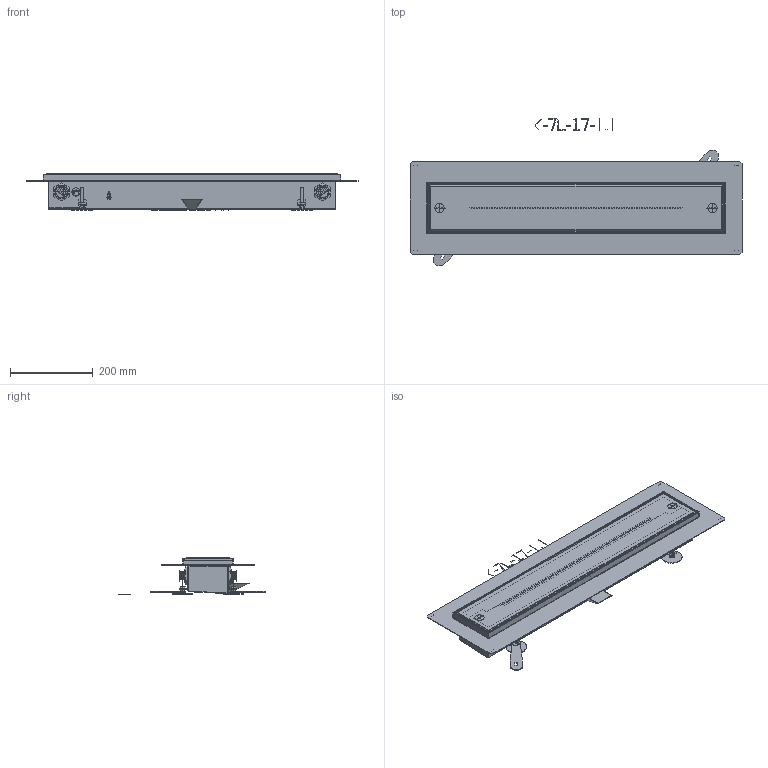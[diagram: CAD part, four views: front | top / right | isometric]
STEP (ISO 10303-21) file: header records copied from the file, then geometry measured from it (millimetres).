
FILE_DESCRIPTION(/* description */ (''),/* implementation_level */ '2;1');
FILE_NAME(/* name */ '3d-Joulia_6-72-17-0.0',/* time_stamp */ '2025-01-20T15:55:05+01:00',/* author */ (''),/* organization */ (''),/* preprocessor_version */ 'ST-DEVELOPER v16.5',/* originating_system */ 'Rhino 7.37',/* authorisation */ '');
FILE_SCHEMA (('AUTOMOTIVE_DESIGN_CC2'));
Products named in the file (1): Document
Bounding box: 801.7 x 356.55 x 88.29 mm (x, y, z)
Volume: 906441.2 mm3; surface area: 1221719 mm2
Topology: 26 solids, 109 shells, 1821 faces, 4883 edges, 3198 vertices
Faces by surface type: bspline 1821
Entity records: 190351 total; most frequent: CARTESIAN_POINT 129876, B_SPLINE_CURVE_WITH_KNOTS 11418, ORIENTED_EDGE 9282, PCURVE 9282, DEFINITIONAL_REPRESENTATION 9282, SURFACE_CURVE 4818, EDGE_CURVE 4818, VERTEX_POINT 3188
